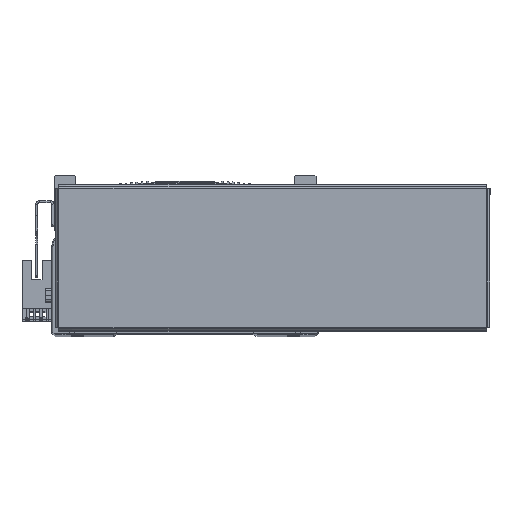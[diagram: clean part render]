
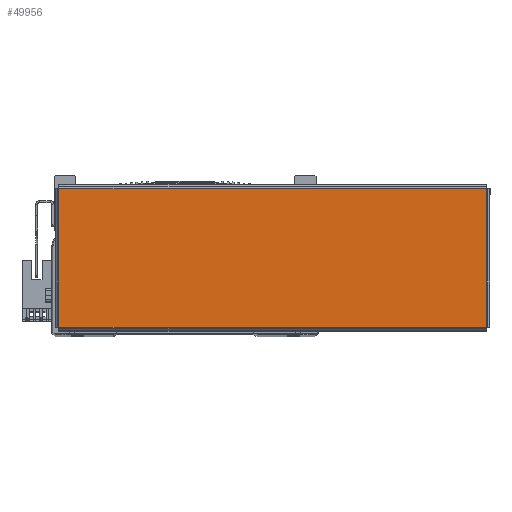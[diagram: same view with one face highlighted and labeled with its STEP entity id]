
A CAD part, top view. The second image highlights one B-rep face of the part: STEP entity #49956.
In plain terms, the highlighted planar face has unit normal (0, 0, 1) as drawn and (0, 0, -1) by its records, which use the part's own axes.
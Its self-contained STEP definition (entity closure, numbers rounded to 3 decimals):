
#12166 = FACE_OUTER_BOUND ( 'NONE', #68166, .T. ) ;
#37551 = CARTESIAN_POINT ( 'NONE',  ( -97.893, 31.763, -1. ) ) ;
#37574 = DIRECTION ( 'NONE',  ( 1., 0., 0. ) ) ;
#37614 = CARTESIAN_POINT ( 'NONE',  ( 97.893, -31.763, -1. ) ) ;
#37616 = DIRECTION ( 'NONE',  ( -1., 0., 0. ) ) ;
#37770 = CARTESIAN_POINT ( 'NONE',  ( 97.863, 31.793, -1. ) ) ;
#37782 = DIRECTION ( 'NONE',  ( 0., -1., 0. ) ) ;
#37824 = DIRECTION ( 'NONE',  ( 0., 1., 0. ) ) ;
#37889 = CARTESIAN_POINT ( 'NONE',  ( -97.863, -31.793, -1. ) ) ;
#38942 = CARTESIAN_POINT ( 'NONE',  ( 97.863, -31.763, -1. ) ) ;
#38957 = CARTESIAN_POINT ( 'NONE',  ( -97.863, 31.763, -1. ) ) ;
#38994 = CARTESIAN_POINT ( 'NONE',  ( 97.863, 31.763, -1. ) ) ;
#39009 = CARTESIAN_POINT ( 'NONE',  ( -97.863, -31.763, -1. ) ) ;
#39053 = LINE ( 'NONE', #37770, #39058 ) ;
#39058 = VECTOR ( 'NONE', #37782, 1000. ) ;
#39088 = LINE ( 'NONE', #37551, #39092 ) ;
#39092 = VECTOR ( 'NONE', #37574, 1000. ) ;
#39094 = VECTOR ( 'NONE', #37616, 1000. ) ;
#39101 = LINE ( 'NONE', #37614, #39094 ) ;
#39188 = LINE ( 'NONE', #37889, #39296 ) ;
#39296 = VECTOR ( 'NONE', #37824, 1000. ) ;
#49956 = ADVANCED_FACE ( 'NONE', ( #12166 ), #59992, .F. ) ;
#59907 = CARTESIAN_POINT ( 'NONE',  ( 0., 0., -1. ) ) ;
#59923 = DIRECTION ( 'NONE',  ( 0., 0., 1. ) ) ;
#59928 = DIRECTION ( 'NONE',  ( 1., 0., 0. ) ) ;
#59992 = PLANE ( 'NONE',  #77159 ) ;
#62279 = ORIENTED_EDGE ( 'NONE', *, *, #72508, .T. ) ;
#62331 = ORIENTED_EDGE ( 'NONE', *, *, #72480, .T. ) ;
#62336 = ORIENTED_EDGE ( 'NONE', *, *, #72533, .T. ) ;
#62515 = ORIENTED_EDGE ( 'NONE', *, *, #72489, .T. ) ;
#66726 = VERTEX_POINT ( 'NONE', #39009 ) ;
#66729 = VERTEX_POINT ( 'NONE', #38994 ) ;
#66742 = VERTEX_POINT ( 'NONE', #38942 ) ;
#66755 = VERTEX_POINT ( 'NONE', #38957 ) ;
#68166 = EDGE_LOOP ( 'NONE', ( #62279, #62331, #62336, #62515 ) ) ;
#72480 = EDGE_CURVE ( 'NONE', #66742, #66726, #39101, .T. ) ;
#72489 = EDGE_CURVE ( 'NONE', #66755, #66729, #39088, .T. ) ;
#72508 = EDGE_CURVE ( 'NONE', #66729, #66742, #39053, .T. ) ;
#72533 = EDGE_CURVE ( 'NONE', #66726, #66755, #39188, .T. ) ;
#77159 = AXIS2_PLACEMENT_3D ( 'NONE', #59907, #59923, #59928 ) ;
